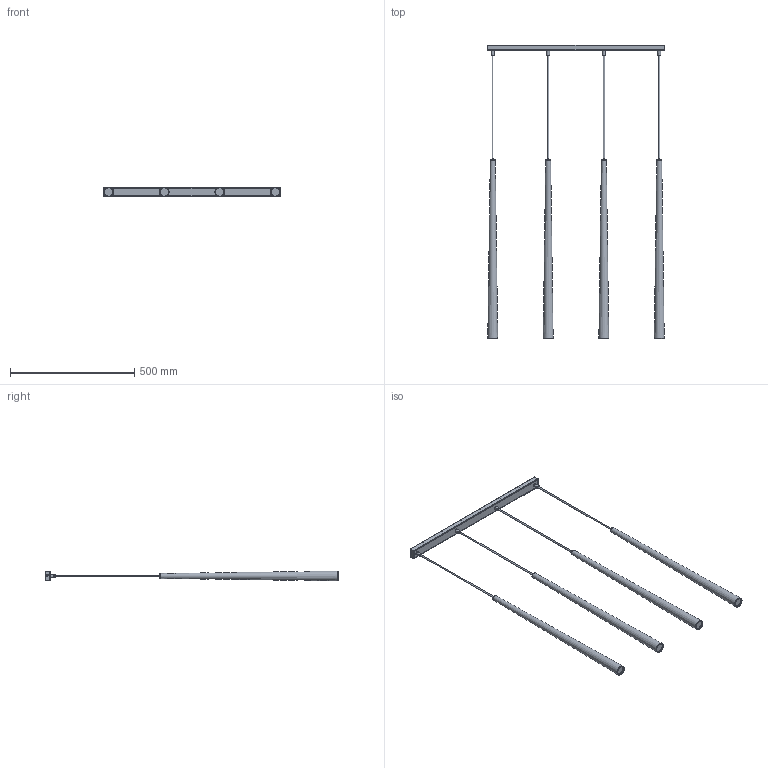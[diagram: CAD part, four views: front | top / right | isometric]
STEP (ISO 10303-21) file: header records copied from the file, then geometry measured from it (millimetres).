
FILE_DESCRIPTION(/* description */ (''),/* implementation_level */ '2;1');
FILE_NAME(/* name */ 'C:/Users/kubaw/OneDrive/Pulpit/Nowy folder (3)/6414_PIANO v3.step',/* time_stamp */ '2021-12-11T11:56:09+01:00',/* author */ (''),/* organization */ (''),/* preprocessor_version */ 'ST-DEVELOPER v18.1',/* originating_system */ 'Autodesk Translation Framework v10.10.0.1391',/* authorisation */ '');
FILE_SCHEMA (('AUTOMOTIVE_DESIGN { 1 0 10303 214 3 1 1 }'));
Length unit declared in the file: millimetre
Products named in the file (4): 6414_PIANO; ŚRUBA; ŚRUBA (1); PIANO_BAZA
Assembly tree (6 placements, depth 2):
  6414_PIANO
    ŚRUBA
    ŚRUBA (1)
    PIANO_BAZA  x4
Bounding box: 712.4 x 1180 x 40 mm (x, y, z)
Volume: 2492878.5 mm3; surface area: 497763.3 mm2
Topology: 26 solids, 26 shells, 194 faces, 378 edges, 248 vertices
Faces by surface type: plane 130, cylinder 30, torus 16, cone 12, bspline 6
Full cylindrical faces by diameter (mm): 6 x8, 8 x2, 37 x4
Entity records: 3340 total; most frequent: CARTESIAN_POINT 733, DIRECTION 516, ORIENTED_EDGE 492, EDGE_CURVE 246, AXIS2_PLACEMENT_3D 177, LINE 162, VECTOR 162, VERTEX_POINT 161
